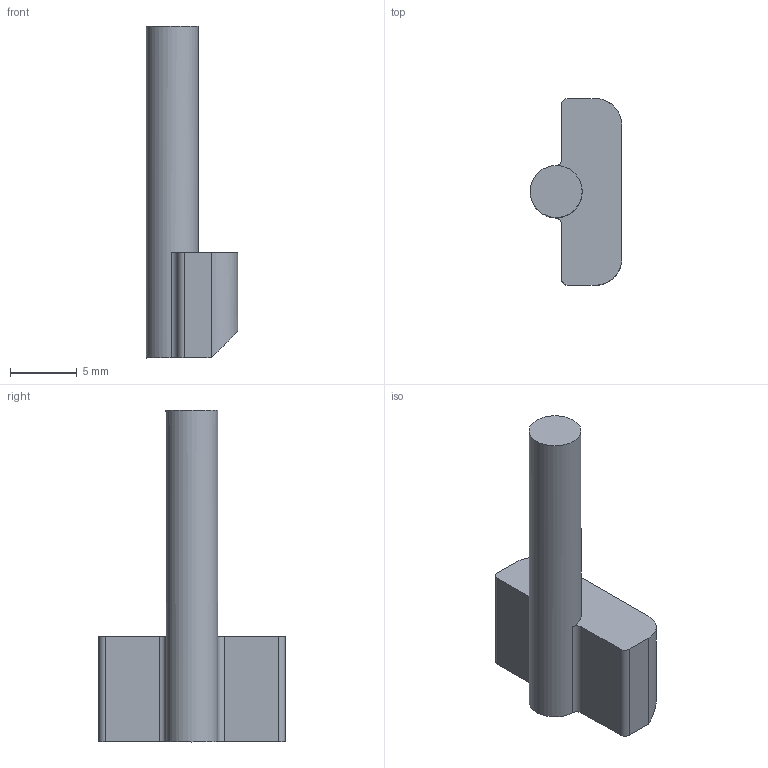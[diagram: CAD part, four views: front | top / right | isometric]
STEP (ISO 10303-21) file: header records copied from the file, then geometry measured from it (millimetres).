
FILE_DESCRIPTION(/* description */ (''),/* implementation_level */ '2;1');
FILE_NAME(/* name */ 'D:/Pew Pews/FGC-9_MkII_Stingray_Edition/Stingray Edition/.step files/2 - Lower/Magazine Catch Pivot Pin.step',/* time_stamp */ '2022-05-12T09:41:48-06:00',/* author */ (''),/* organization */ (''),/* preprocessor_version */ 'ST-DEVELOPER v18.1',/* originating_system */ 'Autodesk Translation Framework v10.10.0.1391',/* authorisation */ '');
FILE_SCHEMA (('AUTOMOTIVE_DESIGN { 1 0 10303 214 3 1 1 }'));
Length unit declared in the file: millimetre
Products named in the file (1): Magazine Catch Pivot Pin
Bounding box: 6.87 x 14 x 24.9 mm (x, y, z)
Volume: 723.8 mm3; surface area: 625.6 mm2
Topology: 1 solids, 1 shells, 16 faces, 40 edges, 26 vertices
Faces by surface type: plane 9, cylinder 7
Full cylindrical faces by diameter (mm): 3.9 x1
Entity records: 524 total; most frequent: DIRECTION 90, CARTESIAN_POINT 83, ORIENTED_EDGE 80, EDGE_CURVE 40, AXIS2_PLACEMENT_3D 33, VERTEX_POINT 26, LINE 24, VECTOR 24
